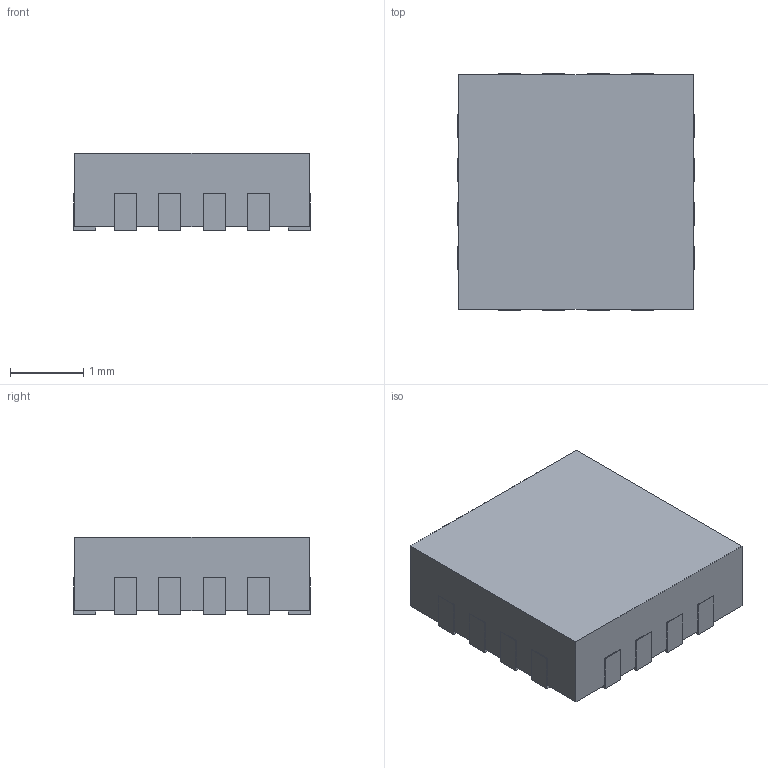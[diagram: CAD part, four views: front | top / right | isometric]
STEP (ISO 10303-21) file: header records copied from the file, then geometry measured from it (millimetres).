
FILE_DESCRIPTION(('FreeCAD Model'),'2;1');
FILE_NAME('Open CASCADE Shape Model','2021-06-28T20:01:11',('Author'),( ''),'Open CASCADE STEP processor 7.5','FreeCAD','Unknown');
FILE_SCHEMA(('AUTOMOTIVE_DESIGN { 1 0 10303 214 1 1 1 1 }'));
Length unit declared in the file: millimetre
Products named in the file (1): Group001
Bounding box: 3.22 x 3.22 x 1.05 mm (x, y, z)
Volume: 10.3 mm3; surface area: 34.5 mm2
Topology: 1 solids, 1 shells, 102 faces, 300 edges, 200 vertices
Faces by surface type: plane 102
Entity records: 7097 total; most frequent: CARTESIAN_POINT 1395, DIRECTION 914, LINE 708, VECTOR 708, ORIENTED_EDGE 600, PCURVE 600, DEFINITIONAL_REPRESENTATION 600, EDGE_CURVE 300
